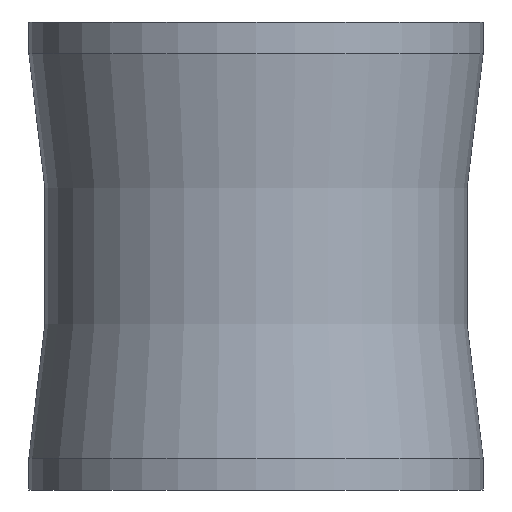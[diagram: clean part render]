
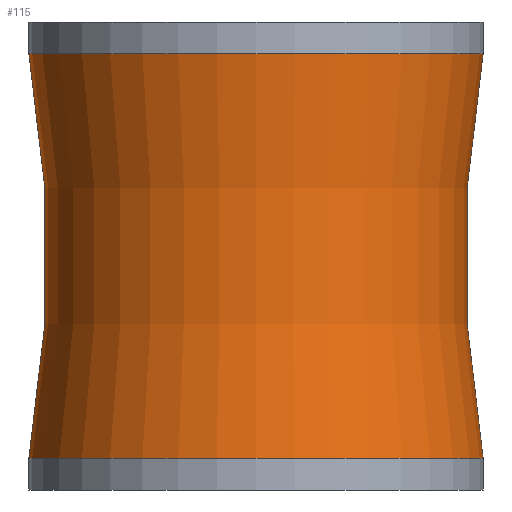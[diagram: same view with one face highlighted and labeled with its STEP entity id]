
A CAD part, front view. The second image highlights one B-rep face of the part: STEP entity #115.
In plain terms, the highlighted toroidal (fillet/blend) face has major radius 296.008 mm and minor radius 250 mm.
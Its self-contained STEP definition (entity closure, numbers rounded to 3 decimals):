
#98=TOROIDAL_SURFACE('',#210,296.008,250.);
#115=ADVANCED_FACE('',(#125),#98,.F.);
#125=FACE_OUTER_BOUND('',#133,.T.);
#133=EDGE_LOOP('',(#151,#152,#153,#154));
#151=ORIENTED_EDGE('',*,*,#179,.F.);
#152=ORIENTED_EDGE('',*,*,#178,.T.);
#153=ORIENTED_EDGE('',*,*,#181,.T.);
#154=ORIENTED_EDGE('',*,*,#182,.F.);
#167=VERTEX_POINT('',#265);
#168=VERTEX_POINT('',#267);
#169=VERTEX_POINT('',#273);
#170=VERTEX_POINT('',#275);
#178=EDGE_CURVE('',#167,#168,#190,.T.);
#179=EDGE_CURVE('',#167,#169,#191,.T.);
#181=EDGE_CURVE('',#168,#170,#193,.T.);
#182=EDGE_CURVE('',#169,#170,#194,.T.);
#190=CIRCLE('',#203,50.);
#191=CIRCLE('',#205,250.);
#193=CIRCLE('',#207,250.);
#194=CIRCLE('',#209,50.);
#203=AXIS2_PLACEMENT_3D('',#270,#230,#231);
#205=AXIS2_PLACEMENT_3D('',#272,#234,#235);
#207=AXIS2_PLACEMENT_3D('',#276,#238,#239);
#209=AXIS2_PLACEMENT_3D('',#278,#242,#243);
#210=AXIS2_PLACEMENT_3D('',#279,#244,#245);
#230=DIRECTION('',(0.,0.,1.));
#231=DIRECTION('',(0.,1.,0.));
#234=DIRECTION('',(0.,-1.,0.));
#235=DIRECTION('',(0.947,0.,0.322));
#238=DIRECTION('',(0.,1.,0.));
#239=DIRECTION('',(-0.947,0.,0.322));
#242=DIRECTION('',(0.,0.,1.));
#243=DIRECTION('',(0.,1.,0.));
#244=DIRECTION('',(0.,0.,1.));
#245=DIRECTION('',(1.,0.,0.));
#265=CARTESIAN_POINT('',(-50.,0.,7.));
#267=CARTESIAN_POINT('',(50.,0.,7.));
#270=CARTESIAN_POINT('',(0.,0.,7.));
#272=CARTESIAN_POINT('',(-296.008,0.,51.5));
#273=CARTESIAN_POINT('',(-50.,0.,96.));
#275=CARTESIAN_POINT('',(50.,0.,96.));
#276=CARTESIAN_POINT('',(296.008,0.,51.5));
#278=CARTESIAN_POINT('',(0.,0.,96.));
#279=CARTESIAN_POINT('',(0.,0.,51.5));
